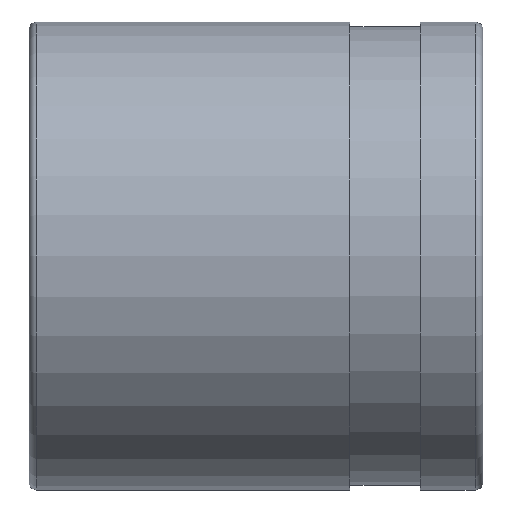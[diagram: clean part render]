
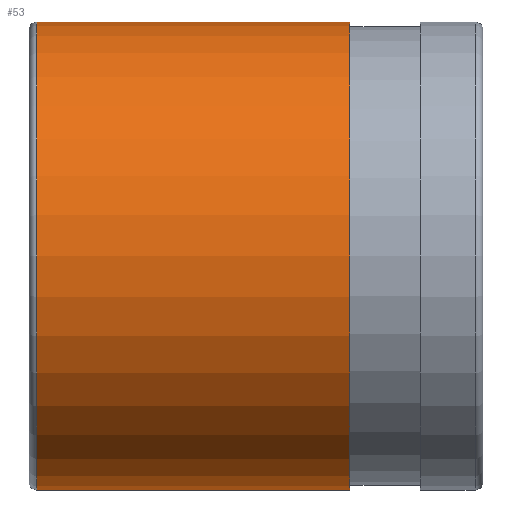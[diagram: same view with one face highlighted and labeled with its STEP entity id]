
A CAD part, left-side view. The second image highlights one B-rep face of the part: STEP entity #53.
In plain terms, the highlighted cylindrical face has radius 14.95 mm (diameter 29.9 mm), a full revolution.
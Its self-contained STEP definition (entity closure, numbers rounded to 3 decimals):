
#53=ADVANCED_FACE('',(#143,#145),#147,.T.);
#143=FACE_OUTER_BOUND('',#144,.T.);
#144=EDGE_LOOP('',(#242));
#145=FACE_OUTER_BOUND('',#146,.T.);
#146=EDGE_LOOP('',(#243));
#147=CYLINDRICAL_SURFACE('',#148,14.95);
#148=AXIS2_PLACEMENT_3D('',#149,#150,#151);
#149=CARTESIAN_POINT('',(0.,0.,0.));
#150=DIRECTION('',(0.,1.,0.));
#151=DIRECTION('',(-1.,0.,0.));
#242=ORIENTED_EDGE('',*,*,#281,.F.);
#243=ORIENTED_EDGE('',*,*,#282,.T.);
#281=EDGE_CURVE('',#320,#320,#321,.T.);
#282=EDGE_CURVE('',#322,#322,#323,.T.);
#320=VERTEX_POINT('',#413);
#321=CIRCLE('',#414,14.95);
#322=VERTEX_POINT('',#418);
#323=CIRCLE('',#419,14.95);
#413=CARTESIAN_POINT('',(-14.95,28.5,0.));
#414=AXIS2_PLACEMENT_3D('',#415,#416,#417);
#415=CARTESIAN_POINT('',(0.,28.5,0.));
#416=DIRECTION('',(0.,1.,0.));
#417=DIRECTION('',(-1.,0.,0.));
#418=CARTESIAN_POINT('',(-14.95,8.5,0.));
#419=AXIS2_PLACEMENT_3D('',#420,#421,#422);
#420=CARTESIAN_POINT('',(0.,8.5,0.));
#421=DIRECTION('',(0.,1.,0.));
#422=DIRECTION('',(-1.,0.,0.));
